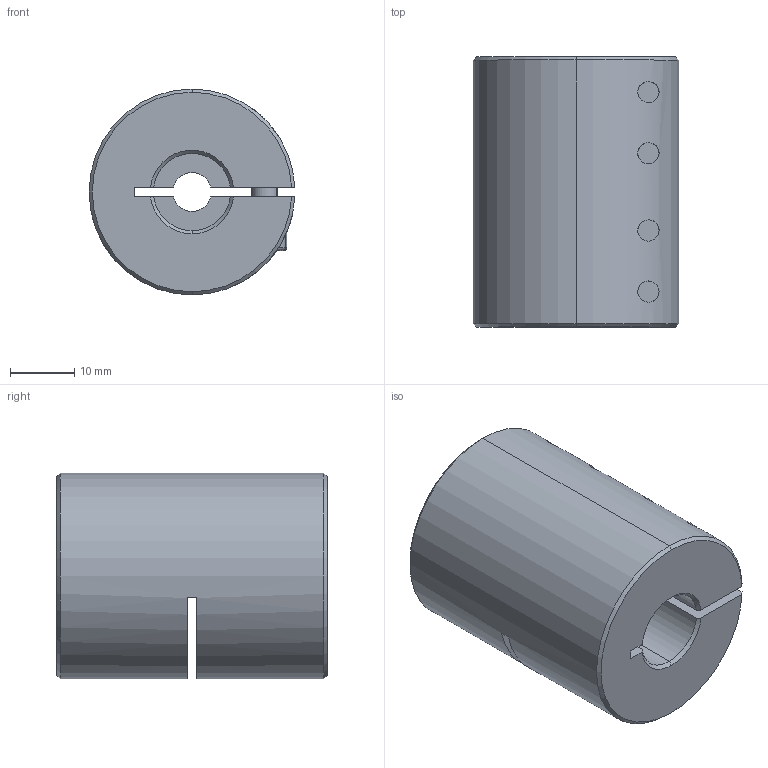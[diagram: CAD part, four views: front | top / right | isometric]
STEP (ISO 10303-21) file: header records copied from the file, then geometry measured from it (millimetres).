
FILE_DESCRIPTION (( 'STEP AP203' ), '1' );
FILE_NAME ('LL-B-D32L42-6-12.STEP', '2021-11-05T07:35:15', ( '' ), ( '' ), 'SwSTEP 2.0', 'SolidWorks 2018', '' );
FILE_SCHEMA (( 'CONFIG_CONTROL_DESIGN' ));
Length unit declared in the file: millimetre
Products named in the file (1): LL-B-D32L42-6-12
Bounding box: 31.98 x 42 x 32 mm (x, y, z)
Volume: 28288.1 mm3; surface area: 10324.3 mm2
Topology: 1 solids, 1 shells, 193 faces, 492 edges, 309 vertices
Faces by surface type: plane 88, cylinder 77, cone 20, torus 8
Entity records: 6376 total; most frequent: CARTESIAN_POINT 1559, DIRECTION 1037, ORIENTED_EDGE 968, EDGE_CURVE 484, AXIS2_PLACEMENT_3D 403, VERTEX_POINT 309, VECTOR 231, LINE 231
